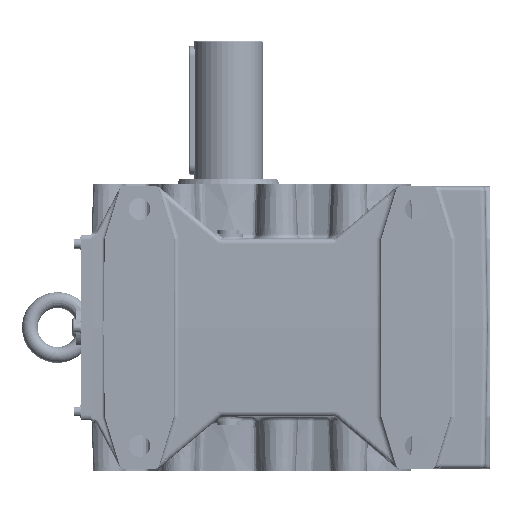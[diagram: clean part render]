
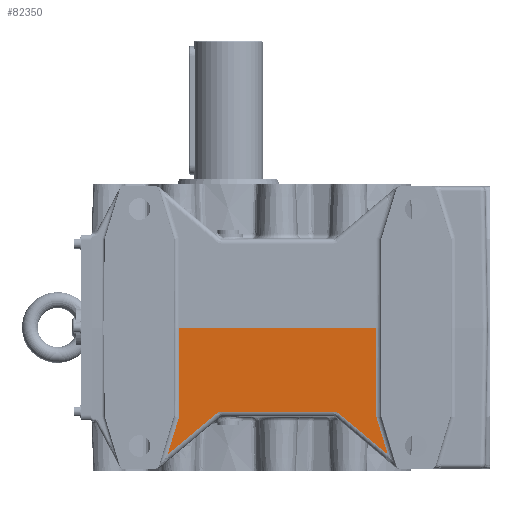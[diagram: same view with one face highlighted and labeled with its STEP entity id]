
A CAD part, left-side view. The second image highlights one B-rep face of the part: STEP entity #82350.
In plain terms, the highlighted planar face has unit normal (-1, 0, -0.018).
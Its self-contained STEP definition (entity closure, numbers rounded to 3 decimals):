
#81848=CARTESIAN_POINT('',(-156.571,50.,0.0));
#81849=VERTEX_POINT('',#81848);
#81856=CARTESIAN_POINT('',(-156.571,-150.0,0.0));
#81857=VERTEX_POINT('',#81856);
#81858=CARTESIAN_POINT('',(-156.571,-150.0,0.0));
#81859=DIRECTION('',(0.0,1.0,0.0));
#81860=VECTOR('',#81859,200.);
#81861=LINE('',#81858,#81860);
#81862=EDGE_CURVE('',#81849,#81857,#81861,.F.);
#82235=CARTESIAN_POINT('',(-154.327,-161.437,-128.536));
#82236=VERTEX_POINT('',#82235);
#82261=CARTESIAN_POINT('',(-154.989,-150.0,-90.651));
#82262=VERTEX_POINT('',#82261);
#82270=CARTESIAN_POINT('',(-154.989,-150.0,-90.651));
#82271=DIRECTION('',(0.017,-0.289,-0.957));
#82272=VECTOR('',#82271,39.579);
#82273=LINE('',#82270,#82272);
#82274=EDGE_CURVE('',#82262,#82236,#82273,.T.);
#82279=CARTESIAN_POINT('',(-156.571,-260.0,-0.014));
#82280=DIRECTION('',(1.,0.,0.017));
#82281=DIRECTION('',(0.017,0.,-1.));
#82282=AXIS2_PLACEMENT_3D('',#82279,#82280,#82281);
#82283=PLANE('',#82282);
#82284=CARTESIAN_POINT('',(-155.045,12.445,-87.427));
#82285=VERTEX_POINT('',#82284);
#82286=CARTESIAN_POINT('',(-154.327,61.437,-128.536));
#82287=VERTEX_POINT('',#82286);
#82288=CARTESIAN_POINT('',(-155.045,12.445,-87.427));
#82289=DIRECTION('',(0.011,0.766,-0.643));
#82290=VECTOR('',#82289,63.958);
#82291=LINE('',#82288,#82290);
#82292=EDGE_CURVE('',#82285,#82287,#82291,.T.);
#82293=ORIENTED_EDGE('',*,*,#82292,.F.);
#82294=CARTESIAN_POINT('',(-155.086,6.017,-85.087));
#82295=VERTEX_POINT('',#82294);
#82296=CARTESIAN_POINT('',(-154.911,6.017,-95.087));
#82297=DIRECTION('',(-1.,0.,-0.017));
#82298=DIRECTION('',(-0.017,0.,1.));
#82299=AXIS2_PLACEMENT_3D('',#82296,#82297,#82298);
#82300=ELLIPSE('',#82299,10.002,10.);
#82301=EDGE_CURVE('',#82295,#82285,#82300,.T.);
#82302=ORIENTED_EDGE('',*,*,#82301,.F.);
#82303=CARTESIAN_POINT('',(-155.086,-106.017,-85.087));
#82304=VERTEX_POINT('',#82303);
#82305=CARTESIAN_POINT('',(-155.086,-106.017,-85.087));
#82306=DIRECTION('',(0.0,1.0,0.0));
#82307=VECTOR('',#82306,112.034);
#82308=LINE('',#82305,#82307);
#82309=EDGE_CURVE('',#82304,#82295,#82308,.T.);
#82310=ORIENTED_EDGE('',*,*,#82309,.F.);
#82311=CARTESIAN_POINT('',(-155.045,-112.445,-87.427));
#82312=VERTEX_POINT('',#82311);
#82313=CARTESIAN_POINT('',(-154.911,-106.017,-95.087));
#82314=DIRECTION('',(-1.,0.,-0.017));
#82315=DIRECTION('',(-0.017,0.,1.));
#82316=AXIS2_PLACEMENT_3D('',#82313,#82314,#82315);
#82317=ELLIPSE('',#82316,10.002,10.0);
#82318=EDGE_CURVE('',#82312,#82304,#82317,.T.);
#82319=ORIENTED_EDGE('',*,*,#82318,.F.);
#82320=CARTESIAN_POINT('',(-154.327,-161.437,-128.536));
#82321=DIRECTION('',(-0.011,0.766,0.643));
#82322=VECTOR('',#82321,63.958);
#82323=LINE('',#82320,#82322);
#82324=EDGE_CURVE('',#82236,#82312,#82323,.T.);
#82325=ORIENTED_EDGE('',*,*,#82324,.F.);
#82326=ORIENTED_EDGE('',*,*,#82274,.F.);
#82327=CARTESIAN_POINT('',(-156.571,-150.0,0.));
#82328=DIRECTION('',(0.017,0.0,-1.));
#82329=VECTOR('',#82328,90.665);
#82330=LINE('',#82327,#82329);
#82331=EDGE_CURVE('',#81857,#82262,#82330,.T.);
#82332=ORIENTED_EDGE('',*,*,#82331,.F.);
#82333=ORIENTED_EDGE('',*,*,#81862,.F.);
#82334=CARTESIAN_POINT('',(-154.989,50.,-90.651));
#82335=VERTEX_POINT('',#82334);
#82336=CARTESIAN_POINT('',(-154.989,50.,-90.651));
#82337=DIRECTION('',(-0.017,0.0,1.));
#82338=VECTOR('',#82337,90.665);
#82339=LINE('',#82336,#82338);
#82340=EDGE_CURVE('',#82335,#81849,#82339,.T.);
#82341=ORIENTED_EDGE('',*,*,#82340,.F.);
#82342=CARTESIAN_POINT('',(-154.327,61.437,-128.536));
#82343=DIRECTION('',(-0.017,-0.289,0.957));
#82344=VECTOR('',#82343,39.579);
#82345=LINE('',#82342,#82344);
#82346=EDGE_CURVE('',#82287,#82335,#82345,.T.);
#82347=ORIENTED_EDGE('',*,*,#82346,.F.);
#82348=EDGE_LOOP('',(#82293,#82302,#82310,#82319,#82325,#82326,#82332,#82333,#82341,#82347));
#82349=FACE_OUTER_BOUND('',#82348,.T.);
#82350=ADVANCED_FACE('',(#82349),#82283,.F.);
